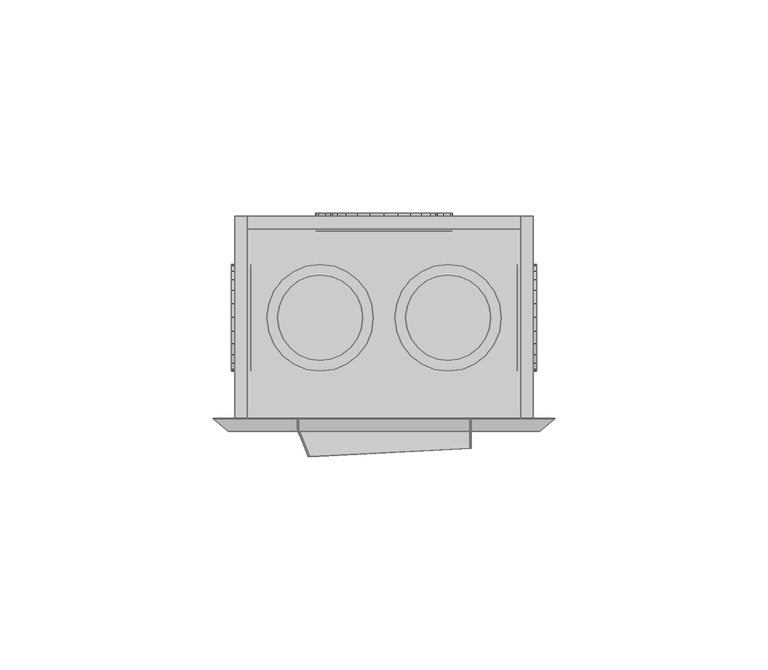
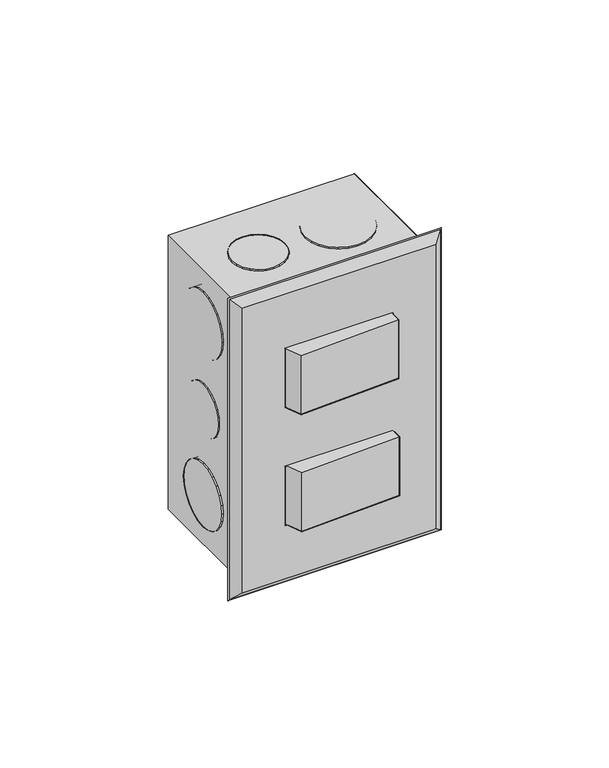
"""IFC4 building model written with IfcOpenShell, lengths in millimetres: proxy geometry,  210355 :  210355."""

from ifc_helpers import new_model, si_unit, origin, place, context, project, spatial, triangles, source, transform, mapped, element, save


def generic_models_1e066e11(model_context):
    return source(origin(), model_context, "Body", "Tessellation", [
        triangles([(22614.3010437, 13148.2997681, 1254.3000378), (22611.2989014, 13148.2997681, 1148.7000154), (22614.3010437, 13148.2997681, 1145.6999805), (22611.2989014, 13148.2997681, 1251.2999302), (22544.3006653, 13148.2997681, 1254.3000378), (22547.3004822, 13148.2997681, 1251.2999302), (22544.3006653, 13148.2997681, 1145.6999805), (22547.3004822, 13148.2997681, 1148.7000154), (22611.2989014, 13195.8003571, 1251.2999302), (22611.2989014, 13195.8003571, 1148.7000154), (22544.3006653, 13195.8003571, 1254.3000378), (22544.3006653, 13195.8003571, 1145.6999805), (22547.3004822, 13195.8003571, 1251.2999302), (22614.3010437, 13195.8003571, 1145.6999805), (22547.3004822, 13195.8003571, 1148.7000154), (22614.3010437, 13195.8003571, 1254.3000378), (22611.2989014, 13192.8005402, 1251.2999302), (22547.3004822, 13192.8005402, 1148.7000154), (22611.2989014, 13192.8005402, 1148.7000154), (22547.3004822, 13192.8005402, 1251.2999302), (22587.3003662, 13196.5003143, 1186.0999855), (22593.2000061, 13196.5003143, 1191.9999887), (22590.6001648, 13196.5003143, 1188.6999722), (22583.5005981, 13196.5003143, 1184.5000105), (22594.7999084, 13196.5003143, 1195.8999687), (22579.3008545, 13196.5003143, 1183.9999683), (22595.2998779, 13196.5003143, 1200.0000092), (22575.2011047, 13196.5003143, 1184.5000105), (22594.7999084, 13196.5003143, 1204.0999769), (22571.2990173, 13196.5003143, 1186.0999855), (22593.2000061, 13196.5003143, 1208.0000296), (22567.9992187, 13196.5003143, 1188.6999722), (22590.6001648, 13196.5003143, 1211.2999735), (22565.4993713, 13196.5003143, 1191.9999887), (22587.3003662, 13196.5003143, 1213.9000328), (22563.899469, 13196.5003143, 1195.8999687), (22583.5005981, 13196.5003143, 1215.5000078), (22563.2995056, 13196.5003143, 1200.0000092), (22579.3008545, 13196.5003143, 1215.9999773), (22563.899469, 13196.5003143, 1204.0999769), (22575.2011047, 13196.5003143, 1215.5000078), (22565.4993713, 13196.5003143, 1208.0000296), (22571.2990173, 13196.5003143, 1213.9000328), (22567.9992187, 13196.5003143, 1211.2999735), (22583.5005981, 13192.3005707, 1215.5000078), (22579.3008545, 13192.3005707, 1215.9999773), (22587.3003662, 13192.3005707, 1213.9000328), (22590.6001648, 13192.3005707, 1211.2999735), (22593.2000061, 13192.3005707, 1208.0000296), (22594.7999084, 13192.3005707, 1204.0999769), (22595.2998779, 13192.3005707, 1200.0000092), (22594.7999084, 13192.3005707, 1195.8999687), (22593.2000061, 13192.3005707, 1191.9999887), (22590.6001648, 13192.3005707, 1188.6999722), (22587.3003662, 13192.3005707, 1186.0999855), (22583.5005981, 13192.3005707, 1184.5000105), (22579.3008545, 13192.3005707, 1183.9999683), (22575.2011047, 13192.3005707, 1184.5000105), (22571.2990173, 13192.3005707, 1186.0999855), (22567.9992187, 13192.3005707, 1188.6999722), (22565.4993713, 13192.3005707, 1191.9999887), (22563.899469, 13192.3005707, 1195.8999687), (22563.2995056, 13192.3005707, 1200.0000092), (22563.899469, 13192.3005707, 1204.0999769), (22565.4993713, 13192.3005707, 1208.0000296), (22567.9992187, 13192.3005707, 1211.2999735), (22571.2990173, 13192.3005707, 1213.9000328), (22575.2011047, 13192.3005707, 1215.5000078), (22590.2001892, 13192.3005707, 1227.8000565), (22585.60047, 13192.3005707, 1223.2000465), (22588.2003113, 13192.3005707, 1225.2000698), (22591.400116, 13192.3005707, 1230.8000187), (22582.6006531, 13192.3005707, 1221.8999805), (22591.8000916, 13192.3005707, 1233.9999687), (22579.3008545, 13192.3005707, 1221.500005), (22591.400116, 13192.3005707, 1237.2000641), (22576.1010498, 13192.3005707, 1221.8999805), (22590.2001892, 13192.3005707, 1240.3000202), (22573.0989075, 13192.3005707, 1223.2000465), (22588.2003113, 13192.3005707, 1242.800013), (22570.4990662, 13192.3005707, 1225.2000698), (22568.4991882, 13192.3005707, 1227.8000565), (22585.60047, 13192.3005707, 1244.8000362), (22582.6006531, 13192.3005707, 1246.0999569), (22567.2992615, 13192.3005707, 1230.8000187), (22579.3008545, 13192.3005707, 1246.4999325), (22566.799292, 13192.3005707, 1233.9999687), (22576.1010498, 13192.3005707, 1246.0999569), (22567.2992615, 13192.3005707, 1237.2000641), (22568.4991882, 13192.3005707, 1240.3000202), (22573.0989075, 13192.3005707, 1244.8000362), (22570.4990662, 13192.3005707, 1242.800013), (22567.2992615, 13196.5003143, 1230.8000187), (22568.4991882, 13196.5003143, 1227.8000565), (22570.4990662, 13196.5003143, 1225.2000698), (22573.0989075, 13196.5003143, 1223.2000465), (22576.1010498, 13196.5003143, 1221.8999805), (22579.3008545, 13196.5003143, 1221.500005), (22582.6006531, 13196.5003143, 1221.8999805), (22585.60047, 13196.5003143, 1223.2000465), (22588.2003113, 13196.5003143, 1225.2000698), (22590.2001892, 13196.5003143, 1227.8000565), (22591.400116, 13196.5003143, 1230.8000187), (22591.8000916, 13196.5003143, 1233.9999687), (22591.400116, 13196.5003143, 1237.2000641), (22590.2001892, 13196.5003143, 1240.3000202), (22588.2003113, 13196.5003143, 1242.800013), (22585.60047, 13196.5003143, 1244.8000362), (22582.6006531, 13196.5003143, 1246.0999569), (22579.3008545, 13196.5003143, 1246.4999325), (22576.1010498, 13196.5003143, 1246.0999569), (22573.0989075, 13196.5003143, 1244.8000362), (22570.4990662, 13196.5003143, 1242.800013), (22568.4991882, 13196.5003143, 1240.3000202), (22567.2992615, 13196.5003143, 1237.2000641), (22566.799292, 13196.5003143, 1233.9999687), (22585.60047, 13196.5003143, 1155.1999821), (22590.2001892, 13196.5003143, 1159.6999981), (22588.2003113, 13196.5003143, 1157.2000053), (22582.6006531, 13196.5003143, 1153.8999887), (22591.400116, 13196.5003143, 1162.8000269), (22579.3008545, 13196.5003143, 1153.5000132), (22591.8000916, 13196.5003143, 1165.9999769), (22576.1010498, 13196.5003143, 1153.8999887), (22591.400116, 13196.5003143, 1169.1999996), (22573.0989075, 13196.5003143, 1155.1999821), (22590.2001892, 13196.5003143, 1172.2000345), (22570.4990662, 13196.5003143, 1157.2000053), (22588.2003113, 13196.5003143, 1174.8000212), (22568.4991882, 13196.5003143, 1159.6999981), (22585.60047, 13196.5003143, 1176.7999718), (22567.2992615, 13196.5003143, 1162.8000269), (22582.6006531, 13196.5003143, 1178.0999651), (22579.3008545, 13196.5003143, 1178.5000134), (22566.799292, 13196.5003143, 1165.9999769), (22567.2992615, 13196.5003143, 1169.1999996), (22576.1010498, 13196.5003143, 1178.0999651), (22568.4991882, 13196.5003143, 1172.2000345), (22573.0989075, 13196.5003143, 1176.7999718), (22570.4990662, 13196.5003143, 1174.8000212), (22582.6006531, 13192.3005707, 1178.0999651), (22579.3008545, 13192.3005707, 1178.5000134), (22585.60047, 13192.3005707, 1176.7999718), (22588.2003113, 13192.3005707, 1174.8000212), (22590.2001892, 13192.3005707, 1172.2000345), (22591.400116, 13192.3005707, 1169.1999996), (22591.8000916, 13192.3005707, 1165.9999769), (22591.400116, 13192.3005707, 1162.8000269), (22590.2001892, 13192.3005707, 1159.6999981), (22588.2003113, 13192.3005707, 1157.2000053), (22585.60047, 13192.3005707, 1155.1999821), (22582.6006531, 13192.3005707, 1153.8999887), (22579.3008545, 13192.3005707, 1153.5000132), (22576.1010498, 13192.3005707, 1153.8999887), (22573.0989075, 13192.3005707, 1155.1999821), (22570.4990662, 13192.3005707, 1157.2000053), (22568.4991882, 13192.3005707, 1159.6999981), (22567.2992615, 13192.3005707, 1162.8000269), (22566.799292, 13192.3005707, 1165.9999769), (22567.2992615, 13192.3005707, 1169.1999996), (22568.4991882, 13192.3005707, 1172.2000345), (22570.4990662, 13192.3005707, 1174.8000212), (22573.0989075, 13192.3005707, 1176.7999718), (22576.1010498, 13192.3005707, 1178.0999651), (22615.1009949, 13180.700116, 1195.0000237), (22615.1009949, 13177.0003418, 1191.3000315), (22615.1009949, 13179.1002136, 1192.9000065), (22615.1009949, 13181.7000549, 1197.4000225), (22615.1009949, 13174.6004883, 1190.3000198), (22615.1009949, 13182.0000366, 1200.0000092), (22615.1009949, 13171.9994843, 1189.9999655), (22615.1009949, 13181.7000549, 1202.5999958), (22615.1009949, 13169.3996429, 1190.3000198), (22615.1009949, 13180.700116, 1204.9999947), (22615.1009949, 13166.9997894, 1191.3000315), (22615.1009949, 13179.1002136, 1207.1000118), (22615.1009949, 13164.8999176, 1192.9000065), (22615.1009949, 13177.0003418, 1208.6999868), (22615.1009949, 13163.3000153, 1195.0000237), (22615.1009949, 13174.6004883, 1209.6999985), (22615.1009949, 13162.3000763, 1197.4000225), (22615.1009949, 13162.0000946, 1200.0000092), (22615.1009949, 13171.9994843, 1209.9999802), (22615.1009949, 13169.3996429, 1209.6999985), (22615.1009949, 13162.3000763, 1202.5999958), (22615.1009949, 13166.9997894, 1208.6999868), (22615.1009949, 13163.3000153, 1204.9999947), (22615.1009949, 13164.8999176, 1207.1000118), (22610.4989502, 13174.6004883, 1209.6999985), (22610.4989502, 13171.9994843, 1209.9999802), (22610.4989502, 13169.3996429, 1209.6999985), (22610.4989502, 13166.9997894, 1208.6999868), (22610.4989502, 13164.8999176, 1207.1000118), (22610.4989502, 13163.3000153, 1204.9999947), (22610.4989502, 13162.3000763, 1202.5999958), (22610.4989502, 13162.0000946, 1200.0000092), (22610.4989502, 13162.3000763, 1197.4000225), (22610.4989502, 13163.3000153, 1195.0000237), (22610.4989502, 13164.8999176, 1192.9000065), (22610.4989502, 13166.9997894, 1191.3000315), (22610.4989502, 13169.3996429, 1190.3000198), (22610.4989502, 13171.9994843, 1189.9999655), (22610.4989502, 13174.6004883, 1190.3000198), (22610.4989502, 13177.0003418, 1191.3000315), (22610.4989502, 13179.1002136, 1192.9000065), (22610.4989502, 13180.700116, 1195.0000237), (22610.4989502, 13181.7000549, 1197.4000225), (22610.4989502, 13182.0000366, 1200.0000092), (22610.4989502, 13181.7000549, 1202.5999958), (22610.4989502, 13180.700116, 1204.9999947), (22610.4989502, 13179.1002136, 1207.1000118), (22610.4989502, 13177.0003418, 1208.6999868), (22610.4989502, 13178.3002625, 1223.2000465), (22610.4989502, 13182.7999878, 1227.8000565), (22610.4989502, 13180.8001099, 1225.2000698), (22610.4989502, 13175.2004517, 1221.8999805), (22610.4989502, 13184.0999084, 1230.8000187), (22610.4989502, 13184.499884, 1233.9999687), (22610.4989502, 13171.9994843, 1221.500005), (22610.4989502, 13168.7996796, 1221.8999805), (22610.4989502, 13184.0999084, 1237.2000641), (22610.4989502, 13182.7999878, 1240.3000202), (22610.4989502, 13165.7998627, 1223.2000465), (22610.4989502, 13163.2000214, 1225.2000698), (22610.4989502, 13180.8001099, 1242.800013), (22610.4989502, 13161.2001434, 1227.8000565), (22610.4989502, 13178.3002625, 1244.8000362), (22610.4989502, 13159.9002228, 1230.8000187), (22610.4989502, 13175.2004517, 1246.0999569), (22610.4989502, 13159.5002472, 1233.9999687), (22610.4989502, 13171.9994843, 1246.4999325), (22610.4989502, 13159.9002228, 1237.2000641), (22610.4989502, 13168.7996796, 1246.0999569), (22610.4989502, 13161.2001434, 1240.3000202), (22610.4989502, 13165.7998627, 1244.8000362), (22610.4989502, 13163.2000214, 1242.800013), (22615.1009949, 13171.9994843, 1221.500005), (22615.1009949, 13175.2004517, 1221.8999805), (22615.1009949, 13168.7996796, 1221.8999805), (22615.1009949, 13165.7998627, 1223.2000465), (22615.1009949, 13163.2000214, 1225.2000698), (22615.1009949, 13161.2001434, 1227.8000565), (22615.1009949, 13159.9002228, 1230.8000187), (22615.1009949, 13159.5002472, 1233.9999687), (22615.1009949, 13159.9002228, 1237.2000641), (22615.1009949, 13161.2001434, 1240.3000202), (22615.1009949, 13163.2000214, 1242.800013), (22615.1009949, 13165.7998627, 1244.8000362), (22615.1009949, 13168.7996796, 1246.0999569), (22615.1009949, 13171.9994843, 1246.4999325), (22615.1009949, 13175.2004517, 1246.0999569), (22615.1009949, 13178.3002625, 1244.8000362), (22615.1009949, 13180.8001099, 1242.800013), (22615.1009949, 13182.7999878, 1240.3000202), (22615.1009949, 13184.0999084, 1237.2000641), (22615.1009949, 13184.499884, 1233.9999687), (22615.1009949, 13184.0999084, 1230.8000187), (22615.1009949, 13182.7999878, 1227.8000565), (22615.1009949, 13180.8001099, 1225.2000698), (22615.1009949, 13178.3002625, 1223.2000465), (22615.1009949, 13182.7999878, 1159.6999981), (22615.1009949, 13178.3002625, 1155.1999821), (22615.1009949, 13180.8001099, 1157.2000053), (22615.1009949, 13184.0999084, 1162.8000269), (22615.1009949, 13175.2004517, 1153.8999887), (22615.1009949, 13184.499884, 1165.9999769), (22615.1009949, 13171.9994843, 1153.5000132), (22615.1009949, 13184.0999084, 1169.1999996), (22615.1009949, 13168.7996796, 1153.8999887), (22615.1009949, 13182.7999878, 1172.2000345), (22615.1009949, 13165.7998627, 1155.1999821), (22615.1009949, 13180.8001099, 1174.8000212), (22615.1009949, 13163.2000214, 1157.2000053), (22615.1009949, 13178.3002625, 1176.7999718), (22615.1009949, 13161.2001434, 1159.6999981), (22615.1009949, 13175.2004517, 1178.0999651), (22615.1009949, 13159.9002228, 1162.8000269), (22615.1009949, 13171.9994843, 1178.5000134), (22615.1009949, 13159.5002472, 1165.9999769), (22615.1009949, 13168.7996796, 1178.0999651), (22615.1009949, 13159.9002228, 1169.1999996), (22615.1009949, 13165.7998627, 1176.7999718), (22615.1009949, 13161.2001434, 1172.2000345), (22615.1009949, 13163.2000214, 1174.8000212), (22610.4989502, 13175.2004517, 1178.0999651), (22610.4989502, 13171.9994843, 1178.5000134), (22610.4989502, 13168.7996796, 1178.0999651), (22610.4989502, 13165.7998627, 1176.7999718), (22610.4989502, 13163.2000214, 1174.8000212), (22610.4989502, 13161.2001434, 1172.2000345), (22610.4989502, 13159.9002228, 1169.1999996), (22610.4989502, 13159.5002472, 1165.9999769), (22610.4989502, 13159.9002228, 1162.8000269), (22610.4989502, 13161.2001434, 1159.6999981), (22610.4989502, 13163.2000214, 1157.2000053), (22610.4989502, 13165.7998627, 1155.1999821), (22610.4989502, 13168.7996796, 1153.8999887), (22610.4989502, 13171.9994843, 1153.5000132), (22610.4989502, 13175.2004517, 1153.8999887), (22610.4989502, 13178.3002625, 1155.1999821), (22610.4989502, 13180.8001099, 1157.2000053), (22610.4989502, 13182.7999878, 1159.6999981), (22610.4989502, 13184.0999084, 1162.8000269), (22610.4989502, 13184.499884, 1165.9999769), (22610.4989502, 13184.0999084, 1169.1999996), (22610.4989502, 13182.7999878, 1172.2000345), (22610.4989502, 13180.8001099, 1174.8000212), (22610.4989502, 13178.3002625, 1176.7999718), (22543.5007141, 13177.0003418, 1191.3000315), (22543.5007141, 13180.700116, 1195.0000237), (22543.5007141, 13179.1002136, 1192.9000065), (22543.5007141, 13181.7000549, 1197.4000225), (22543.5007141, 13174.6004883, 1190.3000198), (22543.5007141, 13182.0000366, 1200.0000092), (22543.5007141, 13171.9994843, 1189.9999655), (22543.5007141, 13169.3996429, 1190.3000198), (22543.5007141, 13181.7000549, 1202.5999958), (22543.5007141, 13180.700116, 1204.9999947), (22543.5007141, 13166.9997894, 1191.3000315), (22543.5007141, 13179.1002136, 1207.1000118), (22543.5007141, 13164.8999176, 1192.9000065), (22543.5007141, 13163.3000153, 1195.0000237), (22543.5007141, 13177.0003418, 1208.6999868), (22543.5007141, 13162.3000763, 1197.4000225), (22543.5007141, 13174.6004883, 1209.6999985), (22543.5007141, 13162.0000946, 1200.0000092), (22543.5007141, 13171.9994843, 1209.9999802), (22543.5007141, 13162.3000763, 1202.5999958), (22543.5007141, 13169.3996429, 1209.6999985), (22543.5007141, 13166.9997894, 1208.6999868), (22543.5007141, 13163.3000153, 1204.9999947), (22543.5007141, 13164.8999176, 1207.1000118), (22548.1004333, 13174.6004883, 1190.3000198), (22548.1004333, 13177.0003418, 1191.3000315), (22548.1004333, 13171.9994843, 1189.9999655), (22548.1004333, 13169.3996429, 1190.3000198), (22548.1004333, 13166.9997894, 1191.3000315), (22548.1004333, 13164.8999176, 1192.9000065), (22548.1004333, 13163.3000153, 1195.0000237), (22548.1004333, 13162.3000763, 1197.4000225), (22548.1004333, 13162.0000946, 1200.0000092), (22548.1004333, 13162.3000763, 1202.5999958), (22548.1004333, 13163.3000153, 1204.9999947), (22548.1004333, 13164.8999176, 1207.1000118), (22548.1004333, 13166.9997894, 1208.6999868), (22548.1004333, 13169.3996429, 1209.6999985), (22548.1004333, 13171.9994843, 1209.9999802), (22548.1004333, 13174.6004883, 1209.6999985), (22548.1004333, 13177.0003418, 1208.6999868), (22548.1004333, 13179.1002136, 1207.1000118), (22548.1004333, 13180.700116, 1204.9999947), (22548.1004333, 13181.7000549, 1202.5999958), (22548.1004333, 13182.0000366, 1200.0000092), (22548.1004333, 13181.7000549, 1197.4000225), (22548.1004333, 13180.700116, 1195.0000237), (22548.1004333, 13179.1002136, 1192.9000065), (22548.1004333, 13182.7999878, 1159.6999981), (22548.1004333, 13178.3002625, 1155.1999821), (22548.1004333, 13180.8001099, 1157.2000053), (22548.1004333, 13184.0999084, 1162.8000269), (22548.1004333, 13175.2004517, 1153.8999887), (22548.1004333, 13184.499884, 1165.9999769), (22548.1004333, 13171.9994843, 1153.5000132), (22548.1004333, 13184.0999084, 1169.1999996), (22548.1004333, 13168.7996796, 1153.8999887), (22548.1004333, 13182.7999878, 1172.2000345), (22548.1004333, 13165.7998627, 1155.1999821), (22548.1004333, 13180.8001099, 1174.8000212), (22548.1004333, 13163.2000214, 1157.2000053), (22548.1004333, 13178.3002625, 1176.7999718), (22548.1004333, 13161.2001434, 1159.6999981), (22548.1004333, 13175.2004517, 1178.0999651), (22548.1004333, 13159.9002228, 1162.8000269), (22548.1004333, 13171.9994843, 1178.5000134), (22548.1004333, 13159.5002472, 1165.9999769), (22548.1004333, 13168.7996796, 1178.0999651), (22548.1004333, 13159.9002228, 1169.1999996), (22548.1004333, 13165.7998627, 1176.7999718), (22548.1004333, 13161.2001434, 1172.2000345), (22548.1004333, 13163.2000214, 1174.8000212), (22543.5007141, 13175.2004517, 1178.0999651), (22543.5007141, 13171.9994843, 1178.5000134), (22543.5007141, 13168.7996796, 1178.0999651), (22543.5007141, 13165.7998627, 1176.7999718), (22543.5007141, 13163.2000214, 1174.8000212), (22543.5007141, 13161.2001434, 1172.2000345), (22543.5007141, 13159.9002228, 1169.1999996), (22543.5007141, 13159.5002472, 1165.9999769), (22543.5007141, 13159.9002228, 1162.8000269), (22543.5007141, 13161.2001434, 1159.6999981), (22543.5007141, 13163.2000214, 1157.2000053), (22543.5007141, 13165.7998627, 1155.1999821), (22543.5007141, 13168.7996796, 1153.8999887), (22543.5007141, 13171.9994843, 1153.5000132), (22543.5007141, 13175.2004517, 1153.8999887), (22543.5007141, 13178.3002625, 1155.1999821), (22543.5007141, 13180.8001099, 1157.2000053), (22543.5007141, 13182.7999878, 1159.6999981), (22543.5007141, 13184.0999084, 1162.8000269), (22543.5007141, 13184.499884, 1165.9999769), (22543.5007141, 13184.0999084, 1169.1999996), (22543.5007141, 13182.7999878, 1172.2000345), (22543.5007141, 13180.8001099, 1174.8000212), (22543.5007141, 13178.3002625, 1176.7999718), (22543.5007141, 13178.3002625, 1223.2000465), (22543.5007141, 13182.7999878, 1227.8000565), (22543.5007141, 13180.8001099, 1225.2000698), (22543.5007141, 13175.2004517, 1221.8999805), (22543.5007141, 13184.0999084, 1230.8000187), (22543.5007141, 13184.499884, 1233.9999687), (22543.5007141, 13171.9994843, 1221.500005), (22543.5007141, 13168.7996796, 1221.8999805), (22543.5007141, 13184.0999084, 1237.2000641), (22543.5007141, 13182.7999878, 1240.3000202), (22543.5007141, 13165.7998627, 1223.2000465), (22543.5007141, 13163.2000214, 1225.2000698), (22543.5007141, 13180.8001099, 1242.800013), (22543.5007141, 13161.2001434, 1227.8000565), (22543.5007141, 13178.3002625, 1244.8000362), (22543.5007141, 13159.9002228, 1230.8000187), (22543.5007141, 13175.2004517, 1246.0999569), (22543.5007141, 13159.5002472, 1233.9999687), (22543.5007141, 13171.9994843, 1246.4999325), (22543.5007141, 13159.9002228, 1237.2000641), (22543.5007141, 13168.7996796, 1246.0999569), (22543.5007141, 13161.2001434, 1240.3000202), (22543.5007141, 13165.7998627, 1244.8000362), (22543.5007141, 13163.2000214, 1242.800013), (22548.1004333, 13171.9994843, 1221.500005), (22548.1004333, 13175.2004517, 1221.8999805), (22548.1004333, 13168.7996796, 1221.8999805), (22548.1004333, 13165.7998627, 1223.2000465), (22548.1004333, 13163.2000214, 1225.2000698), (22548.1004333, 13161.2001434, 1227.8000565), (22548.1004333, 13159.9002228, 1230.8000187), (22548.1004333, 13159.5002472, 1233.9999687), (22548.1004333, 13159.9002228, 1237.2000641), (22548.1004333, 13161.2001434, 1240.3000202), (22548.1004333, 13163.2000214, 1242.800013), (22548.1004333, 13165.7998627, 1244.8000362), (22548.1004333, 13168.7996796, 1246.0999569), (22548.1004333, 13171.9994843, 1246.4999325), (22548.1004333, 13175.2004517, 1246.0999569), (22548.1004333, 13178.3002625, 1244.8000362), (22548.1004333, 13180.8001099, 1242.800013), (22548.1004333, 13182.7999878, 1240.3000202), (22548.1004333, 13184.0999084, 1237.2000641), (22548.1004333, 13184.499884, 1233.9999687), (22548.1004333, 13184.0999084, 1230.8000187), (22548.1004333, 13182.7999878, 1227.8000565), (22548.1004333, 13180.8001099, 1225.2000698), (22548.1004333, 13178.3002625, 1223.2000465), (22600.5995544, 13182.7999878, 1255.1999828), (22605.1992737, 13178.3002625, 1255.1999828), (22603.1993958, 13180.8001099, 1255.1999828), (22606.3992004, 13175.2004517, 1255.1999828), (22597.5997375, 13184.0999084, 1255.1999828), (22594.299939, 13184.499884, 1255.1999828), (22606.799176, 13171.9994843, 1255.1999828), (22606.3992004, 13168.7996796, 1255.1999828), (22591.1001343, 13184.0999084, 1255.1999828), (22588.1003174, 13182.7999878, 1255.1999828), (22605.1992737, 13165.7998627, 1255.1999828), (22603.1993958, 13163.2000214, 1255.1999828), (22585.5004761, 13180.8001099, 1255.1999828), (22583.5005981, 13178.3002625, 1255.1999828), (22600.5995544, 13161.2001434, 1255.1999828), (22597.5997375, 13159.9002228, 1255.1999828), (22582.3006714, 13175.2004517, 1255.1999828), (22594.299939, 13159.5002472, 1255.1999828), (22581.8007019, 13171.9994843, 1255.1999828), (22591.1001343, 13159.9002228, 1255.1999828), (22582.3006714, 13168.7996796, 1255.1999828), (22583.5005981, 13165.7998627, 1255.1999828), (22588.1003174, 13161.2001434, 1255.1999828), (22585.5004761, 13163.2000214, 1255.1999828), (22594.299939, 13159.5002472, 1250.9999485), (22597.5997375, 13159.9002228, 1250.9999485), (22600.5995544, 13161.2001434, 1250.9999485), (22603.1993958, 13163.2000214, 1250.9999485), (22605.1992737, 13165.7998627, 1250.9999485), (22606.3992004, 13168.7996796, 1250.9999485), (22606.799176, 13171.9994843, 1250.9999485), (22606.3992004, 13175.2004517, 1250.9999485), (22605.1992737, 13178.3002625, 1250.9999485), (22603.1993958, 13180.8001099, 1250.9999485), (22600.5995544, 13182.7999878, 1250.9999485), (22597.5997375, 13184.0999084, 1250.9999485), (22594.299939, 13184.499884, 1250.9999485), (22591.1001343, 13184.0999084, 1250.9999485), (22588.1003174, 13182.7999878, 1250.9999485), (22585.5004761, 13180.8001099, 1250.9999485), (22583.5005981, 13178.3002625, 1250.9999485), (22582.3006714, 13175.2004517, 1250.9999485), (22581.8007019, 13171.9994843, 1250.9999485), (22582.3006714, 13168.7996796, 1250.9999485), (22583.5005981, 13165.7998627, 1250.9999485), (22585.5004761, 13163.2000214, 1250.9999485), (22588.1003174, 13161.2001434, 1250.9999485), (22591.1001343, 13159.9002228, 1250.9999485), (22572.9989136, 13177.0003418, 1250.9999485), (22569.2991394, 13180.700116, 1250.9999485), (22571.3990112, 13179.1002136, 1250.9999485), (22566.8992859, 13181.7000549, 1250.9999485), (22573.9988525, 13174.6004883, 1250.9999485), (22564.2994446, 13182.0000366, 1250.9999485), (22574.3011597, 13171.9994843, 1250.9999485), (22573.9988525, 13169.3996429, 1250.9999485), (22561.6996033, 13181.7000549, 1250.9999485), (22559.2997498, 13180.700116, 1250.9999485), (22572.9989136, 13166.9997894, 1250.9999485), (22557.2998718, 13179.1002136, 1250.9999485), (22571.3990112, 13164.8999176, 1250.9999485), (22569.2991394, 13163.3000153, 1250.9999485), (22555.6999695, 13177.0003418, 1250.9999485), (22554.7000305, 13174.6004883, 1250.9999485), (22566.8992859, 13162.3000763, 1250.9999485), (22564.2994446, 13162.0000946, 1250.9999485), (22554.3000549, 13171.9994843, 1250.9999485), (22561.6996033, 13162.3000763, 1250.9999485), (22554.7000305, 13169.3996429, 1250.9999485), (22559.2997498, 13163.3000153, 1250.9999485), (22555.6999695, 13166.9997894, 1250.9999485), (22557.2998718, 13164.8999176, 1250.9999485), (22561.6996033, 13181.7000549, 1255.1999828), (22559.2997498, 13180.700116, 1255.1999828), (22564.2994446, 13182.0000366, 1255.1999828), (22566.8992859, 13181.7000549, 1255.1999828), (22569.2991394, 13180.700116, 1255.1999828), (22571.3990112, 13179.1002136, 1255.1999828), (22572.9989136, 13177.0003418, 1255.1999828), (22573.9988525, 13174.6004883, 1255.1999828), (22574.3011597, 13171.9994843, 1255.1999828), (22573.9988525, 13169.3996429, 1255.1999828), (22572.9989136, 13166.9997894, 1255.1999828), (22571.3990112, 13164.8999176, 1255.1999828), (22569.2991394, 13163.3000153, 1255.1999828), (22566.8992859, 13162.3000763, 1255.1999828), (22564.2994446, 13162.0000946, 1255.1999828), (22561.6996033, 13162.3000763, 1255.1999828), (22559.2997498, 13163.3000153, 1255.1999828), (22557.2998718, 13164.8999176, 1255.1999828), (22555.6999695, 13166.9997894, 1255.1999828), (22554.7000305, 13169.3996429, 1255.1999828), (22554.3000549, 13171.9994843, 1255.1999828), (22554.7000305, 13174.6004883, 1255.1999828), (22555.6999695, 13177.0003418, 1255.1999828), (22557.2998718, 13179.1002136, 1255.1999828), (22602.999408, 13177.0003418, 1144.8000355), (22599.2996338, 13180.700116, 1144.8000355), (22601.3995056, 13179.1002136, 1144.8000355), (22596.8997803, 13181.7000549, 1144.8000355), (22603.9993469, 13174.6004883, 1144.8000355), (22594.299939, 13182.0000366, 1144.8000355), (22604.2993286, 13171.9994843, 1144.8000355), (22603.9993469, 13169.3996429, 1144.8000355), (22591.7000977, 13181.7000549, 1144.8000355), (22589.3002441, 13180.700116, 1144.8000355), (22602.999408, 13166.9997894, 1144.8000355), (22587.3003662, 13179.1002136, 1144.8000355), (22601.3995056, 13164.8999176, 1144.8000355), (22599.2996338, 13163.3000153, 1144.8000355), (22585.7004639, 13177.0003418, 1144.8000355), (22584.7005249, 13174.6004883, 1144.8000355), (22596.8997803, 13162.3000763, 1144.8000355), (22594.299939, 13162.0000946, 1144.8000355), (22584.3005493, 13171.9994843, 1144.8000355), (22591.7000977, 13162.3000763, 1144.8000355), (22584.7005249, 13169.3996429, 1144.8000355), (22589.3002441, 13163.3000153, 1144.8000355), (22585.7004639, 13166.9997894, 1144.8000355), (22587.3003662, 13164.8999176, 1144.8000355), (22596.8997803, 13181.7000549, 1149.099991), (22594.299939, 13182.0000366, 1149.099991), (22599.2996338, 13180.700116, 1149.099991), (22601.3995056, 13179.1002136, 1149.099991), (22602.999408, 13177.0003418, 1149.099991), (22603.9993469, 13174.6004883, 1149.099991), (22604.2993286, 13171.9994843, 1149.099991), (22603.9993469, 13169.3996429, 1149.099991), (22602.999408, 13166.9997894, 1149.099991), (22601.3995056, 13164.8999176, 1149.099991), (22599.2996338, 13163.3000153, 1149.099991), (22596.8997803, 13162.3000763, 1149.099991), (22594.299939, 13162.0000946, 1149.099991), (22591.7000977, 13162.3000763, 1149.099991), (22589.3002441, 13163.3000153, 1149.099991), (22587.3003662, 13164.8999176, 1149.099991), (22585.7004639, 13166.9997894, 1149.099991), (22584.7005249, 13169.3996429, 1149.099991), (22584.3005493, 13171.9994843, 1149.099991), (22584.7005249, 13174.6004883, 1149.099991), (22585.7004639, 13177.0003418, 1149.099991), (22587.3003662, 13179.1002136, 1149.099991), (22589.3002441, 13180.700116, 1149.099991), (22591.7000977, 13181.7000549, 1149.099991), (22575.2011047, 13178.3002625, 1144.8000355), (22570.5990601, 13182.7999878, 1144.8000355), (22573.1989014, 13180.8001099, 1144.8000355), (22576.4010315, 13175.2004517, 1144.8000355), (22567.5992432, 13184.0999084, 1144.8000355), (22564.2994446, 13184.499884, 1144.8000355), (22576.8010071, 13171.9994843, 1144.8000355), (22576.4010315, 13168.7996796, 1144.8000355), (22561.0996399, 13184.0999084, 1144.8000355), (22558.099823, 13182.7999878, 1144.8000355), (22575.2011047, 13165.7998627, 1144.8000355), (22573.1989014, 13163.2000214, 1144.8000355), (22555.4999817, 13180.8001099, 1144.8000355), (22553.5001038, 13178.3002625, 1144.8000355), (22570.5990601, 13161.2001434, 1144.8000355), (22567.5992432, 13159.9002228, 1144.8000355), (22552.300177, 13175.2004517, 1144.8000355), (22564.2994446, 13159.5002472, 1144.8000355), (22551.8002075, 13171.9994843, 1144.8000355), (22561.0996399, 13159.9002228, 1144.8000355), (22552.300177, 13168.7996796, 1144.8000355), (22553.5001038, 13165.7998627, 1144.8000355), (22558.099823, 13161.2001434, 1144.8000355), (22555.4999817, 13163.2000214, 1144.8000355), (22561.0996399, 13184.0999084, 1149.099991), (22558.099823, 13182.7999878, 1149.099991), (22564.2994446, 13184.499884, 1149.099991), (22567.5992432, 13184.0999084, 1149.099991), (22570.5990601, 13182.7999878, 1149.099991), (22573.1989014, 13180.8001099, 1149.099991), (22575.2011047, 13178.3002625, 1149.099991), (22576.4010315, 13175.2004517, 1149.099991), (22576.8010071, 13171.9994843, 1149.099991), (22576.4010315, 13168.7996796, 1149.099991), (22575.2011047, 13165.7998627, 1149.099991), (22573.1989014, 13163.2000214, 1149.099991), (22570.5990601, 13161.2001434, 1149.099991), (22567.5992432, 13159.9002228, 1149.099991), (22564.2994446, 13159.5002472, 1149.099991), (22561.0996399, 13159.9002228, 1149.099991), (22558.099823, 13161.2001434, 1149.099991), (22555.4999817, 13163.2000214, 1149.099991), (22553.5001038, 13165.7998627, 1149.099991), (22552.300177, 13168.7996796, 1149.099991), (22551.8002075, 13171.9994843, 1149.099991), (22552.300177, 13175.2004517, 1149.099991), (22553.5001038, 13178.3002625, 1149.099991), (22555.4999817, 13180.8001099, 1149.099991), (22539.3009705, 13148.2997681, 1139.9999651), (22599.4996216, 13148.2997681, 1164.5999897), (22619.3007385, 13148.2997681, 1139.9999651), (22559.099762, 13148.2997681, 1164.5999897), (22539.3009705, 13148.2997681, 1259.9999805), (22559.099762, 13148.2997681, 1188.0000149), (22559.099762, 13148.2997681, 1211.3999674), (22559.099762, 13148.2997681, 1234.8000652), (22619.3007385, 13148.2997681, 1259.9999805), (22599.4996216, 13148.2997681, 1188.0000149), (22599.4996216, 13148.2997681, 1211.3999674), (22599.4996216, 13148.2997681, 1234.8000652), (22599.4996216, 13145.2999512, 1188.0000149), (22559.099762, 13145.2999512, 1188.0000149), (22599.4996216, 13145.2999512, 1234.8000652), (22559.099762, 13145.2999512, 1234.8000652), (22559.099762, 13145.2999512, 1164.5999897), (22559.099762, 13145.2999512, 1211.3999674), (22599.4996216, 13145.2999512, 1164.5999897), (22599.4996216, 13145.2999512, 1211.3999674), (22615.8009521, 13145.2999512, 1143.4999695), (22615.8009521, 13145.2999512, 1256.5000488), (22542.8007568, 13145.2999512, 1143.4999695), (22542.8007568, 13145.2999512, 1256.5000488), (22599.3996277, 13141.3001953, 1211.2999735), (22558.9997681, 13148.2997681, 1211.2999735), (22599.3996277, 13148.2997681, 1211.2999735), (22561.5996094, 13139.4003113, 1211.2999735), (22558.9997681, 13145.7999207, 1211.2999735), (22599.3996277, 13148.2997681, 1234.7000713), (22558.9997681, 13148.2997681, 1234.7000713), (22599.3996277, 13141.3001953, 1234.7000713), (22561.5996094, 13139.4003113, 1234.7000713), (22558.9997681, 13145.7999207, 1234.7000713), (22599.6996094, 13141.3001953, 1164.6999836), (22559.2997498, 13148.2997681, 1164.6999836), (22599.6996094, 13148.2997681, 1164.6999836), (22561.8995911, 13139.4003113, 1164.6999836), (22559.2997498, 13145.7999207, 1164.6999836), (22599.6996094, 13148.2997681, 1188.1000088), (22559.2997498, 13148.2997681, 1188.1000088), (22599.6996094, 13141.3001953, 1188.1000088), (22561.8995911, 13139.4003113, 1188.1000088), (22559.2997498, 13145.7999207, 1188.1000088)], [[1, 2, 3], [2, 1, 4], [5, 4, 1], [4, 5, 6], [3, 2, 7], [7, 2, 8], [7, 8, 6], [7, 6, 5], [2, 9, 10], [9, 2, 4], [7, 11, 12], [11, 7, 5], [4, 13, 9], [13, 4, 6], [3, 12, 14], [12, 3, 7], [13, 8, 15], [8, 13, 6], [16, 3, 14], [3, 16, 1], [15, 2, 10], [2, 15, 8], [11, 1, 16], [1, 11, 5], [12, 10, 14], [10, 12, 15], [11, 15, 12], [15, 11, 13], [14, 10, 16], [16, 10, 9], [16, 9, 13], [16, 13, 11], [17, 18, 19], [18, 17, 20], [18, 13, 15], [13, 18, 20], [19, 15, 10], [15, 19, 18], [9, 19, 10], [19, 9, 17], [13, 17, 9], [17, 13, 20], [15, 9, 10], [9, 15, 13], [21, 22, 23], [22, 21, 24], [25, 22, 24], [25, 24, 26], [27, 25, 26], [27, 26, 28], [29, 27, 28], [29, 28, 30], [31, 29, 30], [31, 30, 32], [31, 32, 33], [33, 32, 34], [33, 34, 35], [35, 34, 36], [35, 36, 37], [37, 36, 38], [37, 38, 39], [39, 38, 40], [39, 40, 41], [41, 40, 42], [41, 42, 43], [43, 42, 44], [39, 45, 37], [45, 39, 46], [37, 47, 35], [47, 37, 45], [35, 48, 33], [48, 35, 47], [33, 49, 31], [49, 33, 48], [31, 50, 29], [50, 31, 49], [29, 51, 27], [51, 29, 50], [27, 52, 25], [52, 27, 51], [25, 53, 22], [53, 25, 52], [22, 54, 23], [54, 22, 53], [54, 21, 23], [21, 54, 55], [55, 24, 21], [24, 55, 56], [56, 26, 24], [26, 56, 57], [57, 28, 26], [28, 57, 58], [58, 30, 28], [30, 58, 59], [59, 32, 30], [32, 59, 60], [60, 34, 32], [34, 60, 61], [61, 36, 34], [36, 61, 62], [62, 38, 36], [38, 62, 63], [63, 40, 38], [40, 63, 64], [64, 42, 40], [42, 64, 65], [65, 44, 42], [44, 65, 66], [44, 67, 43], [67, 44, 66], [43, 68, 41], [68, 43, 67], [41, 46, 39], [46, 41, 68], [53, 55, 54], [55, 53, 52], [56, 55, 52], [56, 52, 51], [57, 56, 51], [57, 51, 50], [58, 57, 50], [58, 50, 49], [59, 58, 49], [59, 49, 48], [59, 48, 60], [60, 48, 47], [60, 47, 61], [61, 47, 45], [61, 45, 62], [62, 45, 46], [62, 46, 63], [63, 46, 68], [63, 68, 64], [64, 68, 67], [64, 67, 65], [65, 67, 66], [69, 70, 71], [70, 69, 72], [73, 70, 72], [73, 72, 74], [75, 73, 74], [75, 74, 76], [77, 75, 76], [77, 76, 78], [79, 77, 78], [79, 78, 80], [81, 79, 80], [81, 80, 82], [82, 80, 83], [82, 83, 84], [82, 84, 85], [85, 84, 86], [85, 86, 87], [87, 86, 88], [87, 88, 89], [89, 88, 90], [90, 88, 91], [90, 91, 92], [82, 93, 94], [93, 82, 85], [81, 94, 95], [94, 81, 82], [79, 95, 96], [95, 79, 81], [77, 96, 97], [96, 77, 79], [75, 97, 98], [97, 75, 77], [73, 98, 99], [98, 73, 75], [70, 99, 100], [99, 70, 73], [71, 100, 101], [100, 71, 70], [102, 71, 101], [71, 102, 69], [103, 69, 102], [69, 103, 72], [104, 72, 103], [72, 104, 74], [105, 74, 104], [74, 105, 76], [106, 76, 105], [76, 106, 78], [107, 78, 106], [78, 107, 80], [108, 80, 107], [80, 108, 83], [109, 83, 108], [83, 109, 84], [110, 84, 109], [84, 110, 86], [111, 86, 110], [86, 111, 88], [112, 88, 111], [88, 112, 91], [113, 91, 112], [91, 113, 92], [90, 113, 114], [113, 90, 92], [89, 114, 115], [114, 89, 90], [87, 115, 116], [115, 87, 89], [85, 116, 93], [116, 85, 87], [100, 102, 101], [102, 100, 99], [103, 102, 99], [103, 99, 98], [104, 103, 98], [104, 98, 97], [105, 104, 97], [106, 105, 97], [106, 97, 96], [106, 96, 95], [106, 95, 107], [107, 95, 94], [107, 94, 108], [108, 94, 93], [108, 93, 109], [109, 93, 116], [109, 116, 110], [110, 116, 115], [110, 115, 111], [111, 115, 114], [111, 114, 112], [112, 114, 113], [117, 118, 119], [118, 117, 120], [121, 118, 120], [121, 120, 122], [123, 121, 122], [123, 122, 124], [125, 123, 124], [125, 124, 126], [127, 125, 126], [127, 126, 128], [127, 128, 129], [129, 128, 130], [129, 130, 131], [131, 130, 132], [131, 132, 133], [133, 132, 134], [134, 132, 135], [134, 135, 136], [134, 136, 137], [137, 136, 138], [137, 138, 139], [139, 138, 140], [134, 141, 133], [141, 134, 142], [133, 143, 131], [143, 133, 141], [131, 144, 129], [144, 131, 143], [129, 145, 127], [145, 129, 144], [127, 146, 125], [146, 127, 145], [125, 147, 123], [147, 125, 146], [123, 148, 121], [148, 123, 147], [121, 149, 118], [149, 121, 148], [118, 150, 119], [150, 118, 149], [150, 117, 119], [117, 150, 151], [151, 120, 117], [120, 151, 152], [152, 122, 120], [122, 152, 153], [153, 124, 122], [124, 153, 154], [154, 126, 124], [126, 154, 155], [155, 128, 126], [128, 155, 156], [156, 130, 128], [130, 156, 157], [157, 132, 130], [132, 157, 158], [158, 135, 132], [135, 158, 159], [159, 136, 135], [136, 159, 160], [160, 138, 136], [138, 160, 161], [161, 140, 138], [140, 161, 162], [140, 163, 139], [163, 140, 162], [139, 164, 137], [164, 139, 163], [137, 142, 134], [142, 137, 164], [149, 151, 150], [151, 149, 148], [152, 151, 148], [153, 152, 148], [153, 148, 147], [153, 147, 146], [154, 153, 146], [154, 146, 145], [155, 154, 145], [155, 145, 144], [156, 155, 144], [156, 144, 157], [157, 144, 143], [157, 143, 141], [157, 141, 158], [158, 141, 142], [158, 142, 159], [159, 142, 164], [159, 164, 160], [160, 164, 163], [160, 163, 161], [161, 163, 162], [165, 166, 167], [166, 165, 168], [169, 166, 168], [169, 168, 170], [171, 169, 170], [171, 170, 172], [173, 171, 172], [173, 172, 174], [175, 173, 174], [175, 174, 176], [177, 175, 176], [177, 176, 178], [177, 178, 179], [179, 178, 180], [179, 180, 181], [181, 180, 182], [182, 180, 183], [182, 183, 184], [182, 184, 185], [185, 184, 186], [185, 186, 187], [187, 186, 188], [189, 183, 180], [183, 189, 190], [190, 184, 183], [184, 190, 191], [191, 186, 184], [186, 191, 192], [192, 188, 186], [188, 192, 193], [188, 194, 187], [194, 188, 193], [187, 195, 185], [195, 187, 194], [185, 196, 182], [196, 185, 195], [182, 197, 181], [197, 182, 196], [181, 198, 179], [198, 181, 197], [179, 199, 177], [199, 179, 198], [177, 200, 175], [200, 177, 199], [175, 201, 173], [201, 175, 200], [173, 202, 171], [202, 173, 201], [171, 203, 169], [203, 171, 202], [169, 204, 166], [204, 169, 203], [166, 205, 167], [205, 166, 204], [205, 165, 167], [165, 205, 206], [206, 168, 165], [168, 206, 207], [207, 170, 168], [170, 207, 208], [208, 172, 170], [172, 208, 209], [209, 174, 172], [174, 209, 210], [210, 176, 174], [176, 210, 211], [211, 178, 176], [178, 211, 212], [212, 180, 178], [180, 212, 189], [204, 206, 205], [207, 206, 204], [207, 204, 203], [208, 207, 203], [208, 203, 202], [208, 202, 201], [209, 208, 201], [210, 209, 201], [210, 201, 200], [211, 210, 200], [211, 200, 199], [211, 199, 198], [211, 198, 212], [212, 198, 197], [212, 197, 189], [189, 197, 196], [189, 196, 190], [190, 196, 195], [190, 195, 191], [191, 195, 192], [192, 195, 194], [192, 194, 193], [213, 214, 215], [214, 213, 216], [217, 214, 216], [218, 217, 216], [218, 216, 219], [218, 219, 220], [221, 218, 220], [222, 221, 220], [222, 220, 223], [222, 223, 224], [222, 224, 225], [225, 224, 226], [225, 226, 227], [227, 226, 228], [227, 228, 229], [229, 228, 230], [229, 230, 231], [231, 230, 232], [231, 232, 233], [233, 232, 234], [233, 234, 235], [235, 234, 236], [237, 216, 238], [216, 237, 219], [239, 219, 237], [219, 239, 220], [240, 220, 239], [220, 240, 223], [241, 223, 240], [223, 241, 224], [242, 224, 241], [224, 242, 226], [243, 226, 242], [226, 243, 228], [244, 228, 243], [228, 244, 230], [245, 230, 244], [230, 245, 232], [246, 232, 245], [232, 246, 234], [247, 234, 246], [234, 247, 236], [235, 247, 248], [247, 235, 236], [233, 248, 249], [248, 233, 235], [231, 249, 250], [249, 231, 233], [229, 250, 251], [250, 229, 231], [227, 251, 252], [251, 227, 229], [225, 252, 253], [252, 225, 227], [222, 253, 254], [253, 222, 225], [221, 254, 255], [254, 221, 222], [218, 255, 256], [255, 218, 221], [217, 256, 257], [256, 217, 218], [214, 257, 258], [257, 214, 217], [215, 258, 259], [258, 215, 214], [260, 215, 259], [215, 260, 213], [238, 213, 260], [213, 238, 216], [258, 260, 259], [260, 258, 257], [238, 260, 257], [238, 257, 256], [237, 238, 256], [237, 256, 255], [239, 237, 255], [239, 255, 254], [240, 239, 254], [240, 254, 253], [240, 253, 241], [241, 253, 252], [241, 252, 242], [242, 252, 251], [242, 251, 243], [243, 251, 244], [244, 251, 250], [244, 250, 249], [244, 249, 245], [245, 249, 246], [246, 249, 248], [246, 248, 247], [261, 262, 263], [262, 261, 264], [265, 262, 264], [265, 264, 266], [267, 265, 266], [267, 266, 268], [269, 267, 268], [269, 268, 270], [271, 269, 270], [271, 270, 272], [271, 272, 273], [273, 272, 274], [273, 274, 275], [275, 274, 276], [275, 276, 277], [277, 276, 278], [277, 278, 279], [279, 278, 280], [279, 280, 281], [281, 280, 282], [281, 282, 283], [283, 282, 284], [285, 278, 276], [278, 285, 286], [286, 280, 278], [280, 286, 287], [287, 282, 280], [282, 287, 288], [288, 284, 282], [284, 288, 289], [284, 290, 283], [290, 284, 289], [283, 291, 281], [291, 283, 290], [281, 292, 279], [292, 281, 291], [279, 293, 277], [293, 279, 292], [277, 294, 275], [294, 277, 293], [275, 295, 273], [295, 275, 294], [273, 296, 271], [296, 273, 295], [271, 297, 269], [297, 271, 296], [269, 298, 267], [298, 269, 297], [267, 299, 265], [299, 267, 298], [265, 300, 262], [300, 265, 299], [262, 301, 263], [301, 262, 300], [301, 261, 263], [261, 301, 302], [302, 264, 261], [264, 302, 303], [303, 266, 264], [266, 303, 304], [304, 268, 266], [268, 304, 305], [305, 270, 268], [270, 305, 306], [306, 272, 270], [272, 306, 307], [307, 274, 272], [274, 307, 308], [308, 276, 274], [276, 308, 285], [300, 302, 301], [302, 300, 299], [303, 302, 299], [303, 299, 298], [304, 303, 298], [304, 298, 297], [305, 304, 297], [305, 297, 296], [306, 305, 296], [306, 296, 295], [306, 295, 307], [307, 295, 294], [307, 294, 308], [308, 294, 293], [308, 293, 285], [285, 293, 286], [286, 293, 292], [286, 292, 291], [286, 291, 287], [287, 291, 288], [288, 291, 290], [288, 290, 289], [309, 310, 311], [312, 310, 309], [312, 309, 313], [314, 312, 313], [314, 313, 315], [314, 315, 316], [317, 314, 316], [318, 317, 316], [318, 316, 319], [320, 318, 319], [320, 319, 321], [320, 321, 322], [320, 322, 323], [323, 322, 324], [323, 324, 325], [325, 324, 326], [325, 326, 327], [327, 326, 328], [327, 328, 329], [329, 328, 330], [330, 328, 331], [330, 331, 332], [333, 309, 334], [309, 333, 313], [335, 313, 333], [313, 335, 315], [336, 315, 335], [315, 336, 316], [337, 316, 336], [316, 337, 319], [338, 319, 337], [319, 338, 321], [339, 321, 338], [321, 339, 322], [340, 322, 339], [322, 340, 324], [341, 324, 340], [324, 341, 326], [342, 326, 341], [326, 342, 328], [343, 328, 342], [328, 343, 331], [344, 331, 343], [331, 344, 332], [330, 344, 345], [344, 330, 332], [329, 345, 346], [345, 329, 330], [327, 346, 347], [346, 327, 329], [325, 347, 348], [347, 325, 327], [323, 348, 349], [348, 323, 325], [320, 349, 350], [349, 320, 323], [318, 350, 351], [350, 318, 320], [317, 351, 352], [351, 317, 318], [314, 352, 353], [352, 314, 317], [312, 353, 354], [353, 312, 314], [310, 354, 355], [354, 310, 312], [311, 355, 356], [355, 311, 310], [334, 311, 356], [311, 334, 309], [355, 334, 356], [334, 355, 354], [333, 334, 354], [333, 354, 353], [335, 333, 353], [335, 353, 352], [336, 335, 352], [336, 352, 351], [337, 336, 351], [337, 351, 350], [338, 337, 350], [338, 350, 349], [338, 349, 339], [339, 349, 348], [339, 348, 340], [340, 348, 341], [341, 348, 347], [341, 347, 346], [341, 346, 342], [342, 346, 345], [342, 345, 343], [343, 345, 344], [357, 358, 359], [358, 357, 360], [361, 358, 360], [361, 360, 362], [363, 361, 362], [363, 362, 364], [365, 363, 364], [365, 364, 366], [367, 365, 366], [367, 366, 368], [367, 368, 369], [369, 368, 370], [369, 370, 371], [371, 370, 372], [371, 372, 373], [373, 372, 374], [373, 374, 375], [375, 374, 376], [375, 376, 377], [377, 376, 378], [377, 378, 379], [379, 378, 380], [381, 374, 372], [374, 381, 382], [382, 376, 374], [376, 382, 383], [383, 378, 376], [378, 383, 384], [384, 380, 378], [380, 384, 385], [380, 386, 379], [386, 380, 385], [379, 387, 377], [387, 379, 386], [377, 388, 375], [388, 377, 387], [375, 389, 373], [389, 375, 388], [373, 390, 371], [390, 373, 389], [371, 391, 369], [391, 371, 390], [369, 392, 367], [392, 369, 391], [367, 393, 365], [393, 367, 392], [365, 394, 363], [394, 365, 393], [363, 395, 361], [395, 363, 394], [361, 396, 358], [396, 361, 395], [358, 397, 359], [397, 358, 396], [397, 357, 359], [357, 397, 398], [398, 360, 357], [360, 398, 399], [399, 362, 360], [362, 399, 400], [400, 364, 362], [364, 400, 401], [401, 366, 364], [366, 401, 402], [402, 368, 366], [368, 402, 403], [403, 370, 368], [370, 403, 404], [404, 372, 370], [372, 404, 381], [396, 398, 397], [398, 396, 395], [399, 398, 395], [399, 395, 394], [400, 399, 394], [400, 394, 393], [401, 400, 393], [401, 393, 392], [402, 401, 392], [402, 392, 391], [402, 391, 403], [403, 391, 390], [403, 390, 404], [404, 390, 389], [404, 389, 381], [381, 389, 382], [382, 389, 388], [382, 388, 387], [382, 387, 383], [383, 387, 384], [384, 387, 386], [384, 386, 385], [405, 406, 407], [406, 405, 408], [409, 406, 408], [410, 409, 408], [410, 408, 411], [410, 411, 412], [413, 410, 412], [414, 413, 412], [414, 412, 415], [414, 415, 416], [414, 416, 417], [417, 416, 418], [417, 418, 419], [419, 418, 420], [419, 420, 421], [421, 420, 422], [421, 422, 423], [423, 422, 424], [423, 424, 425], [425, 424, 426], [425, 426, 427], [427, 426, 428], [429, 408, 430], [408, 429, 411], [431, 411, 429], [411, 431, 412], [432, 412, 431], [412, 432, 415], [433, 415, 432], [415, 433, 416], [434, 416, 433], [416, 434, 418], [435, 418, 434], [418, 435, 420], [436, 420, 435], [420, 436, 422], [437, 422, 436], [422, 437, 424], [438, 424, 437], [424, 438, 426], [439, 426, 438], [426, 439, 428], [427, 439, 440], [439, 427, 428], [425, 440, 441], [440, 425, 427], [423, 441, 442], [441, 423, 425], [421, 442, 443], [442, 421, 423], [419, 443, 444], [443, 419, 421], [417, 444, 445], [444, 417, 419], [414, 445, 446], [445, 414, 417], [413, 446, 447], [446, 413, 414], [410, 447, 448], [447, 410, 413], [409, 448, 449], [448, 409, 410], [406, 449, 450], [449, 406, 409], [407, 450, 451], [450, 407, 406], [452, 407, 451], [407, 452, 405], [430, 405, 452], [405, 430, 408], [450, 452, 451], [452, 450, 449], [430, 452, 449], [430, 449, 448], [429, 430, 448], [429, 448, 447], [431, 429, 447], [431, 447, 446], [432, 431, 446], [432, 446, 445], [432, 445, 433], [433, 445, 444], [433, 444, 434], [434, 444, 443], [434, 443, 435], [435, 443, 436], [436, 443, 442], [436, 442, 441], [436, 441, 437], [437, 441, 438], [438, 441, 440], [438, 440, 439], [453, 454, 455], [456, 454, 453], [456, 453, 457], [456, 457, 458], [459, 456, 458], [460, 459, 458], [460, 458, 461], [460, 461, 462], [463, 460, 462], [464, 463, 462], [464, 462, 465], [464, 465, 466], [464, 466, 467], [467, 466, 468], [468, 466, 469], [468, 469, 470], [470, 469, 471], [470, 471, 472], [472, 471, 473], [472, 473, 474], [472, 474, 475], [475, 474, 476], [468, 477, 478], [477, 468, 470], [467, 478, 479], [478, 467, 468], [464, 479, 480], [479, 464, 467], [463, 480, 481], [480, 463, 464], [460, 481, 482], [481, 460, 463], [459, 482, 483], [482, 459, 460], [456, 483, 484], [483, 456, 459], [454, 484, 485], [484, 454, 456], [455, 485, 486], [485, 455, 454], [487, 455, 486], [455, 487, 453], [488, 453, 487], [453, 488, 457], [489, 457, 488], [457, 489, 458], [490, 458, 489], [458, 490, 461], [491, 461, 490], [461, 491, 462], [492, 462, 491], [462, 492, 465], [493, 465, 492], [465, 493, 466], [494, 466, 493], [466, 494, 469], [495, 469, 494], [469, 495, 471], [496, 471, 495], [471, 496, 473], [497, 473, 496], [473, 497, 474], [498, 474, 497], [474, 498, 476], [475, 498, 499], [498, 475, 476], [472, 499, 500], [499, 472, 475], [470, 500, 477], [500, 470, 472], [485, 487, 486], [487, 485, 484], [488, 487, 484], [489, 488, 484], [489, 484, 483], [489, 483, 482], [490, 489, 482], [491, 490, 482], [491, 482, 481], [491, 481, 480], [492, 491, 480], [492, 480, 493], [493, 480, 479], [493, 479, 478], [493, 478, 494], [494, 478, 477], [494, 477, 495], [495, 477, 500], [495, 500, 496], [496, 500, 497], [497, 500, 499], [497, 499, 498], [501, 502, 503], [504, 502, 501], [504, 501, 505], [506, 504, 505], [506, 505, 507], [506, 507, 508], [509, 506, 508], [510, 509, 508], [510, 508, 511], [512, 510, 511], [512, 511, 513], [512, 513, 514], [512, 514, 515], [515, 514, 516], [516, 514, 517], [516, 517, 518], [516, 518, 519], [519, 518, 520], [519, 520, 521], [521, 520, 522], [521, 522, 523], [523, 522, 524], [510, 525, 509], [525, 510, 526], [509, 527, 506], [527, 509, 525], [506, 528, 504], [528, 506, 527], [504, 529, 502], [529, 504, 528], [502, 530, 503], [530, 502, 529], [530, 501, 503], [501, 530, 531], [531, 505, 501], [505, 531, 532], [532, 507, 505], [507, 532, 533], [533, 508, 507], [508, 533, 534], [534, 511, 508], [511, 534, 535], [535, 513, 511], [513, 535, 536], [536, 514, 513], [514, 536, 537], [537, 517, 514], [517, 537, 538], [538, 518, 517], [518, 538, 539], [539, 520, 518], [520, 539, 540], [540, 522, 520], [522, 540, 541], [541, 524, 522], [524, 541, 542], [524, 543, 523], [543, 524, 542], [523, 544, 521], [544, 523, 543], [521, 545, 519], [545, 521, 544], [519, 546, 516], [546, 519, 545], [516, 547, 515], [547, 516, 546], [515, 548, 512], [548, 515, 547], [512, 526, 510], [526, 512, 548], [529, 531, 530], [531, 529, 528], [532, 531, 528], [532, 528, 527], [533, 532, 527], [534, 533, 527], [534, 527, 525], [534, 525, 526], [535, 534, 526], [535, 526, 548], [536, 535, 548], [536, 548, 537], [537, 548, 547], [537, 547, 546], [537, 546, 538], [538, 546, 539], [539, 546, 545], [539, 545, 540], [540, 545, 544], [540, 544, 541], [541, 544, 543], [541, 543, 542], [549, 550, 551], [552, 550, 549], [552, 549, 553], [554, 552, 553], [554, 553, 555], [554, 555, 556], [557, 554, 556], [558, 557, 556], [558, 556, 559], [560, 558, 559], [560, 559, 561], [560, 561, 562], [560, 562, 563], [563, 562, 564], [564, 562, 565], [564, 565, 566], [564, 566, 567], [567, 566, 568], [567, 568, 569], [569, 568, 570], [569, 570, 571], [571, 570, 572], [554, 573, 552], [573, 554, 574], [552, 575, 550], [575, 552, 573], [550, 576, 551], [576, 550, 575], [576, 549, 551], [549, 576, 577], [577, 553, 549], [553, 577, 578], [578, 555, 553], [555, 578, 579], [579, 556, 555], [556, 579, 580], [580, 559, 556], [559, 580, 581], [581, 561, 559], [561, 581, 582], [582, 562, 561], [562, 582, 583], [583, 565, 562], [565, 583, 584], [584, 566, 565], [566, 584, 585], [585, 568, 566], [568, 585, 586], [586, 570, 568], [570, 586, 587], [587, 572, 570], [572, 587, 588], [572, 589, 571], [589, 572, 588], [571, 590, 569], [590, 571, 589], [569, 591, 567], [591, 569, 590], [567, 592, 564], [592, 567, 591], [564, 593, 563], [593, 564, 592], [563, 594, 560], [594, 563, 593], [560, 595, 558], [595, 560, 594], [558, 596, 557], [596, 558, 595], [557, 574, 554], [574, 557, 596], [575, 577, 576], [577, 575, 573], [578, 577, 573], [578, 573, 574], [579, 578, 574], [580, 579, 574], [580, 574, 596], [580, 596, 595], [581, 580, 595], [581, 595, 594], [582, 581, 594], [582, 594, 583], [583, 594, 593], [583, 593, 592], [583, 592, 584], [584, 592, 585], [585, 592, 591], [585, 591, 586], [586, 591, 590], [586, 590, 587], [587, 590, 589], [587, 589, 588], [597, 598, 599], [598, 597, 600], [601, 598, 600], [602, 601, 600], [602, 600, 603], [602, 603, 604], [605, 602, 604], [606, 605, 604], [606, 604, 607], [606, 607, 608], [609, 606, 608], [609, 608, 610], [610, 608, 611], [610, 611, 612], [610, 612, 613], [613, 612, 614], [613, 614, 615], [615, 614, 616], [615, 616, 617], [617, 616, 618], [618, 616, 619], [618, 619, 620], [606, 621, 605], [621, 606, 622], [605, 623, 602], [623, 605, 621], [602, 624, 601], [624, 602, 623], [601, 625, 598], [625, 601, 624], [598, 626, 599], [626, 598, 625], [626, 597, 599], [597, 626, 627], [627, 600, 597], [600, 627, 628], [628, 603, 600], [603, 628, 629], [629, 604, 603], [604, 629, 630], [630, 607, 604], [607, 630, 631], [631, 608, 607], [608, 631, 632], [632, 611, 608], [611, 632, 633], [633, 612, 611], [612, 633, 634], [634, 614, 612], [614, 634, 635], [635, 616, 614], [616, 635, 636], [636, 619, 616], [619, 636, 637], [637, 620, 619], [620, 637, 638], [620, 639, 618], [639, 620, 638], [618, 640, 617], [640, 618, 639], [617, 641, 615], [641, 617, 640], [615, 642, 613], [642, 615, 641], [613, 643, 610], [643, 613, 642], [610, 644, 609], [644, 610, 643], [609, 622, 606], [622, 609, 644], [625, 627, 626], [628, 627, 625], [628, 625, 624], [628, 624, 623], [629, 628, 623], [630, 629, 623], [630, 623, 621], [630, 621, 622], [631, 630, 622], [632, 631, 622], [632, 622, 644], [632, 644, 643], [632, 643, 633], [633, 643, 634], [634, 643, 642], [634, 642, 635], [635, 642, 641], [635, 641, 636], [636, 641, 640], [636, 640, 639], [636, 639, 637], [637, 639, 638], [645, 646, 647], [646, 645, 648], [649, 648, 645], [648, 649, 650], [650, 649, 651], [651, 649, 652], [647, 646, 653], [653, 646, 654], [653, 654, 655], [653, 655, 656], [653, 656, 652], [653, 652, 649], [650, 655, 654], [655, 650, 651], [657, 650, 654], [650, 657, 658], [659, 652, 656], [652, 659, 660], [650, 661, 648], [661, 650, 658], [652, 662, 651], [662, 652, 660], [648, 663, 646], [663, 648, 661], [651, 664, 655], [664, 651, 662], [663, 654, 646], [654, 663, 657], [664, 656, 655], [656, 664, 659], [653, 665, 647], [665, 653, 666], [647, 665, 645], [645, 665, 667], [668, 645, 667], [645, 668, 649], [653, 668, 666], [649, 668, 653], [664, 658, 657], [658, 664, 662], [666, 663, 665], [663, 666, 657], [657, 666, 664], [664, 666, 659], [660, 659, 666], [668, 660, 666], [665, 663, 667], [667, 663, 661], [667, 661, 668], [668, 661, 658], [668, 658, 662], [668, 662, 660], [669, 670, 671], [670, 669, 672], [670, 672, 673], [670, 674, 671], [674, 670, 675], [674, 669, 671], [669, 674, 676], [676, 672, 669], [672, 676, 677], [672, 678, 673], [678, 672, 677], [673, 675, 670], [675, 673, 678], [675, 676, 674], [676, 675, 677], [677, 675, 678], [679, 680, 681], [680, 679, 682], [680, 682, 683], [680, 684, 681], [684, 680, 685], [684, 679, 681], [679, 684, 686], [686, 682, 679], [682, 686, 687], [682, 688, 683], [688, 682, 687], [683, 685, 680], [685, 683, 688], [685, 686, 684], [686, 685, 687], [687, 685, 688]], closed=False),
    ])


if __name__ == "__main__":
    model = new_model("IFC4")
    model_context = context("Model", 3, world=origin())
    ifc_project = project(units=[si_unit("LENGTHUNIT", "METRE", prefix="MILLI")], contexts=[model_context])
    site = spatial("IfcSite", under=ifc_project)
    building = spatial("IfcBuilding", under=site)
    placement = place(None, origin())
    generic_models_shape = generic_models_1e066e11(model_context)
    element("IfcBuildingElementProxy", 1, Name=" 210355 :  210355", ObjectType=" 210355 :  210355", at=placement, inside=building, context=model_context, shape_type="MappedRepresentation", body=[
        mapped(generic_models_shape, transform((0.0, 0.0, 0.0), x_axis=(1.0, 0.0, 0.0), y_axis=(0.0, 1.0, 0.0), z_axis=(0.0, 0.0, 1.0))),
    ])
    save(model, "model.ifc")
